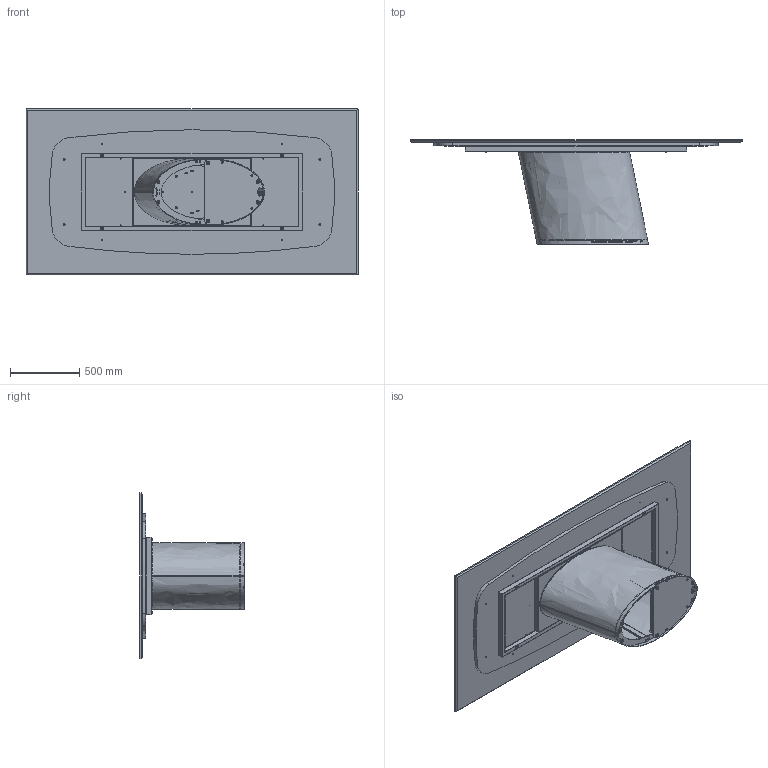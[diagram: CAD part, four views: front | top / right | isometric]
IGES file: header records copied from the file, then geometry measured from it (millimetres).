
Start section: SolidWorks IGES file using analytic representation for surfaces
Global section: file name: Y:\eforma\TECNICO\SOLIDWORKS\E-FORMA\1-TAVOLI\DORADO\02 parts\DO23M.IGS; native system: SolidWorks 2022; preprocessor: SolidWorks 2022; author: eforma.tech; date: 240806.151118; units: millimetre
Bounding box: 2400 x 757 x 1200 mm (x, y, z)
Volume: 112405108.6 mm3; surface area: 16697891.1 mm2
Topology: 46 solids, 46 shells, 1327 faces, 3225 edges, 1981 vertices
Faces by surface type: revolution 847, plane 454, bspline 26
